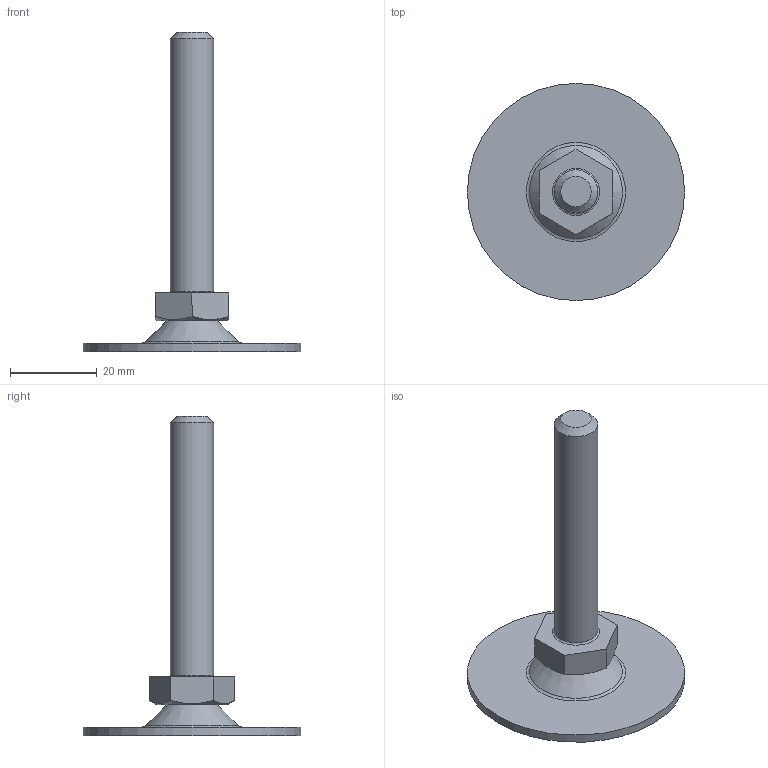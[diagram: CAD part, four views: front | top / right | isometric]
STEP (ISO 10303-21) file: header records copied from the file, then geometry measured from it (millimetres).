
FILE_DESCRIPTION(('STEP AP203'), '1');
FILE_NAME('A00050.1051016', '', ('UNSPECIFIED'), ('UNSPECIFIED'), 'C3D Converter', 'C3D Toolkit', '');
FILE_SCHEMA(('CONFIG_CONTROL_DESIGN'));
Length unit declared in the file: millimetre
Products named in the file (4): A00050.1051060; A00050.1050
Assembly tree (3 placements, depth 2):
  A00050.1051060
    A00050.1050
    (unnamed)
    (unnamed)
Bounding box: 50 x 50 x 73.52 mm (x, y, z)
Volume: 10388.6 mm3; surface area: 7590.3 mm2
Topology: 3 solids, 3 shells, 58 faces, 130 edges, 82 vertices
Faces by surface type: plane 28, torus 8, bspline 8, cone 7, cylinder 6, sphere 1
Full cylindrical faces by diameter (mm): 3.3 x1, 4 x1, 4.5 x1, 8 x1, 10 x1, 50 x1
Entity records: 2171 total; most frequent: CARTESIAN_POINT 784, DIRECTION 242, ORIENTED_EDGE 214, EDGE_CURVE 107, AXIS2_PLACEMENT_3D 95, EDGE_LOOP 86, VERTEX_POINT 81, ADVANCED_FACE 58
